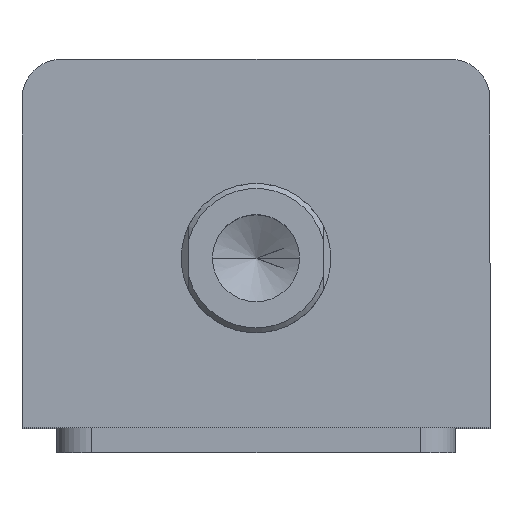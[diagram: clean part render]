
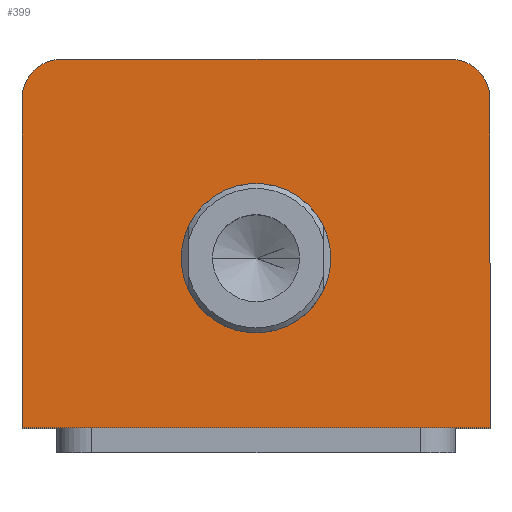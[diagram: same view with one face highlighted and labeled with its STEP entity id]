
A CAD part, top view. The second image highlights one B-rep face of the part: STEP entity #399.
In plain terms, the highlighted planar face has unit normal (0, 0, 1).
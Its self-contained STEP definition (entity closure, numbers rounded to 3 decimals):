
#20 = EDGE_CURVE ( 'NONE', #2598, #1361, #1460, .T. ) ;
#44 = EDGE_CURVE ( 'NONE', #1529, #1597, #2228, .T. ) ;
#57 = EDGE_CURVE ( 'NONE', #1361, #1529, #374, .T. ) ;
#67 = EDGE_CURVE ( 'NONE', #1597, #1551, #1237, .T. ) ;
#73 = EDGE_CURVE ( 'NONE', #1585, #2598, #2229, .T. ) ;
#81 = EDGE_CURVE ( 'NONE', #1551, #1585, #704, .T. ) ;
#90 = EDGE_CURVE ( 'NONE', #1302, #2576, #722, .T. ) ;
#226 = AXIS2_PLACEMENT_3D ( 'NONE', #2488, #2486, #2482 ) ;
#234 = AXIS2_PLACEMENT_3D ( 'NONE', #2542, #2541, #2539 ) ;
#239 = AXIS2_PLACEMENT_3D ( 'NONE', #2472, #2471, #2470 ) ;
#278 = DIRECTION ( 'NONE',  ( -1., 0., 0. ) ) ;
#279 = CARTESIAN_POINT ( 'NONE',  ( -47., 37., 155. ) ) ;
#298 = DIRECTION ( 'NONE',  ( 0., 1., 0. ) ) ;
#300 = CARTESIAN_POINT ( 'NONE',  ( 47., 37., 155. ) ) ;
#374 = CIRCLE ( 'NONE', #226, 8. ) ;
#399 = ADVANCED_FACE ( 'NONE', ( #919, #924 ), #1712, .T. ) ;
#466 = VECTOR ( 'NONE', #2518, 1000. ) ;
#524 = AXIS2_PLACEMENT_3D ( 'NONE', #1711, #1717, #1718 ) ;
#588 = AXIS2_PLACEMENT_3D ( 'NONE', #1945, #1946, #1947 ) ;
#704 = LINE ( 'NONE', #2498, #707 ) ;
#707 = VECTOR ( 'NONE', #2497, 1000. ) ;
#722 = CIRCLE ( 'NONE', #239, 15. ) ;
#919 = FACE_BOUND ( 'NONE', #2419, .T. ) ;
#924 = FACE_OUTER_BOUND ( 'NONE', #2373, .T. ) ;
#1039 = CIRCLE ( 'NONE', #588, 15. ) ;
#1237 = CIRCLE ( 'NONE', #234, 8. ) ;
#1239 = EDGE_CURVE ( 'NONE', #2576, #1302, #1039, .T. ) ;
#1270 = ORIENTED_EDGE ( 'NONE', *, *, #67, .T. ) ;
#1271 = ORIENTED_EDGE ( 'NONE', *, *, #81, .T. ) ;
#1272 = ORIENTED_EDGE ( 'NONE', *, *, #73, .T. ) ;
#1273 = ORIENTED_EDGE ( 'NONE', *, *, #20, .T. ) ;
#1274 = ORIENTED_EDGE ( 'NONE', *, *, #57, .T. ) ;
#1277 = ORIENTED_EDGE ( 'NONE', *, *, #90, .F. ) ;
#1278 = ORIENTED_EDGE ( 'NONE', *, *, #1239, .F. ) ;
#1279 = ORIENTED_EDGE ( 'NONE', *, *, #44, .T. ) ;
#1302 = VERTEX_POINT ( 'NONE', #1949 ) ;
#1361 = VERTEX_POINT ( 'NONE', #2003 ) ;
#1457 = VECTOR ( 'NONE', #298, 1000. ) ;
#1460 = LINE ( 'NONE', #300, #1457 ) ;
#1529 = VERTEX_POINT ( 'NONE', #2023 ) ;
#1551 = VERTEX_POINT ( 'NONE', #2025 ) ;
#1585 = VERTEX_POINT ( 'NONE', #2029 ) ;
#1597 = VERTEX_POINT ( 'NONE', #2026 ) ;
#1711 = CARTESIAN_POINT ( 'NONE',  ( 0., 0., 155. ) ) ;
#1712 = PLANE ( 'NONE',  #524 ) ;
#1717 = DIRECTION ( 'NONE',  ( 0., 0., 1. ) ) ;
#1718 = DIRECTION ( 'NONE',  ( 1., 0., 0. ) ) ;
#1945 = CARTESIAN_POINT ( 'NONE',  ( 0., -3., 155. ) ) ;
#1946 = DIRECTION ( 'NONE',  ( 0., 0., 1. ) ) ;
#1947 = DIRECTION ( 'NONE',  ( 1., 0., 0. ) ) ;
#1949 = CARTESIAN_POINT ( 'NONE',  ( 15., -3., 155. ) ) ;
#2003 = CARTESIAN_POINT ( 'NONE',  ( 47., 29., 155. ) ) ;
#2023 = CARTESIAN_POINT ( 'NONE',  ( 39., 37., 155. ) ) ;
#2025 = CARTESIAN_POINT ( 'NONE',  ( -47., 29., 155. ) ) ;
#2026 = CARTESIAN_POINT ( 'NONE',  ( -39., 37., 155. ) ) ;
#2029 = CARTESIAN_POINT ( 'NONE',  ( -47., -37., 155. ) ) ;
#2061 = CARTESIAN_POINT ( 'NONE',  ( -15., -3., 155. ) ) ;
#2083 = CARTESIAN_POINT ( 'NONE',  ( 47., -37., 155. ) ) ;
#2228 = LINE ( 'NONE', #279, #2232 ) ;
#2229 = LINE ( 'NONE', #2519, #466 ) ;
#2232 = VECTOR ( 'NONE', #278, 1000. ) ;
#2373 = EDGE_LOOP ( 'NONE', ( #1279, #1270, #1271, #1272, #1273, #1274 ) ) ;
#2419 = EDGE_LOOP ( 'NONE', ( #1277, #1278 ) ) ;
#2470 = DIRECTION ( 'NONE',  ( 1., 0., 0. ) ) ;
#2471 = DIRECTION ( 'NONE',  ( 0., 0., 1. ) ) ;
#2472 = CARTESIAN_POINT ( 'NONE',  ( 0., -3., 155. ) ) ;
#2482 = DIRECTION ( 'NONE',  ( 1., 0., 0. ) ) ;
#2486 = DIRECTION ( 'NONE',  ( 0., 0., 1. ) ) ;
#2488 = CARTESIAN_POINT ( 'NONE',  ( 39., 29., 155. ) ) ;
#2497 = DIRECTION ( 'NONE',  ( 0., -1., 0. ) ) ;
#2498 = CARTESIAN_POINT ( 'NONE',  ( -47., 37., 155. ) ) ;
#2518 = DIRECTION ( 'NONE',  ( 1., 0., 0. ) ) ;
#2519 = CARTESIAN_POINT ( 'NONE',  ( -47., -37., 155. ) ) ;
#2539 = DIRECTION ( 'NONE',  ( 1., 0., 0. ) ) ;
#2541 = DIRECTION ( 'NONE',  ( 0., 0., 1. ) ) ;
#2542 = CARTESIAN_POINT ( 'NONE',  ( -39., 29., 155. ) ) ;
#2576 = VERTEX_POINT ( 'NONE', #2061 ) ;
#2598 = VERTEX_POINT ( 'NONE', #2083 ) ;
